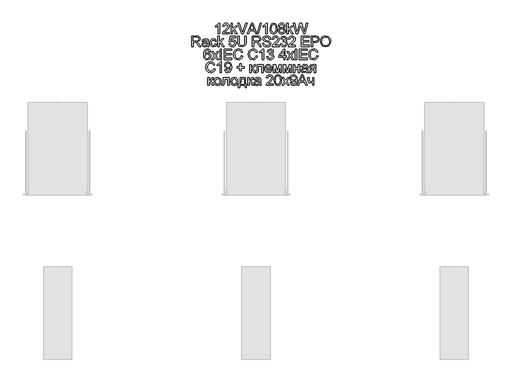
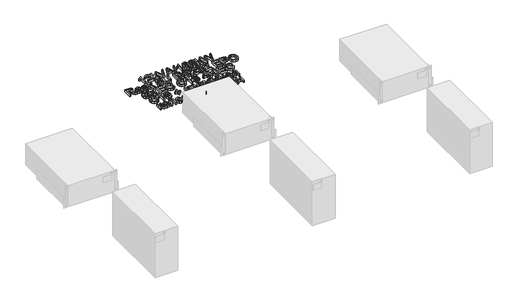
# One storey, part 62 of 74: 1 proxy.
"""IFC4 building model written with IfcOpenShell, lengths in millimetres."""

from ifc_helpers import new_model, si_unit, origin, origin_with_axes, place, context, project, spatial, polyline, outline, extrude, element, save

model = new_model("IFC4")

# Units and contexts
model_context = context("Model", 3, world=origin())
ifc_project = project(units=[si_unit("LENGTHUNIT", "METRE", prefix="MILLI")], contexts=[model_context])

# Site, building, storey
site = spatial("IfcSite", under=ifc_project)
building = spatial("IfcBuilding", under=site)
storey = spatial("IfcBuildingStorey", under=building, Name="Этаж 01", Elevation=0.0)

# Proxy
placement = place(None, origin())
element("IfcBuildingElementProxy", 1, Name="80 мм Arial", ObjectType="80 мм Arial", at=placement, inside=storey, context=model_context, shape_type="SweptSolid", body=[
    extrude(outline(polyline([(16076.7842514, -3326.633326), (16066.7386204, -3326.633326), (16066.7386204, -3264.0050951), (16057.2227394, -3270.783934), (16046.6473583, -3275.8558004), (16046.6473583, -3266.3595399), (16061.3724483, -3256.9613812), (16070.3095283, -3246.2682778), (16076.7842514, -3246.2682778), (16076.7842514, -3326.633326)])), origin_with_axes(), (0.0, 0.0, 1.0), 20.0),
    extrude(outline(polyline([(16152.126484, -3316.5876949), (16152.126484, -3326.633326), (16099.3869212, -3326.633326), (16100.4660417, -3319.7073343), (16106.5679777, -3309.0436615), (16119.1446369, -3297.3989701), (16136.4890467, -3280.6627918), (16140.8251491, -3269.2829755), (16136.7343013, -3260.0712103), (16126.0510082, -3256.3139089), (16114.9164465, -3259.9829186), (16110.6882561, -3270.1266515), (16100.6426251, -3268.8709476), (16103.0780039, -3259.1539579), (16108.3436215, -3252.0562879), (16116.1647927, -3247.7152804), (16126.2668323, -3246.2682778), (16136.4424483, -3247.8771484), (16144.2489042, -3252.7037602), (16149.2153111, -3259.9142473), (16150.8707801, -3268.6747439), (16149.0853262, -3278.200435), (16143.1501633, -3288.0498623), (16128.7586197, -3301.813554), (16117.2022199, -3311.4765878), (16112.6699137, -3316.5876949), (16152.126484, -3316.5876949)])), origin_with_axes(), (0.0, 0.0, 1.0), 20.0),
    extrude(outline(polyline([(16164.6835228, -3326.633326), (16164.6835228, -3246.2682778), (16174.7291538, -3246.2682778), (16174.7291538, -3289.452719), (16197.2533421, -3267.6152437), (16211.1445662, -3267.6152437), (16188.3456927, -3289.7274042), (16212.4002701, -3326.633326), (16200.667287, -3326.633326), (16181.1450158, -3296.712257), (16174.7291538, -3302.9319153), (16174.7291538, -3326.633326), (16164.6835228, -3326.633326)])), origin_with_axes(), (0.0, 0.0, 1.0), 20.0),
    extrude(outline(polyline([(16287.1735119, -3326.633326), (16319.2528219, -3246.2682778), (16327.8073045, -3246.2682778), (16359.8866145, -3326.633326), (16349.2719927, -3326.633326), (16340.0700377, -3301.5192484), (16306.9704683, -3301.5192484), (16297.7881337, -3326.633326), (16287.1735119, -3326.633326)]), holes=[polyline([(16310.6590985, -3291.4736174), (16336.4010279, -3291.4736174), (16329.1611103, -3271.7159017), (16323.5300632, -3256.3139089), (16318.5268681, -3269.9893089), (16310.6590985, -3291.4736174)])]), origin_with_axes(), (0.0, 0.0, 1.0), 20.0),
    extrude(outline(polyline([(16246.1865525, -3326.633326), (16214.2053444, -3246.2682778), (16224.9573089, -3246.2682778), (16246.3631359, -3304.1679988), (16250.6992383, -3317.2155469), (16254.9764797, -3304.1679988), (16276.4411678, -3246.2682778), (16287.1931323, -3246.2682778), (16256.5657299, -3326.633326), (16246.1865525, -3326.633326)])), origin_with_axes(), (0.0, 0.0, 1.0), 20.0),
    extrude(outline(polyline([(16361.8290314, -3326.633326), (16384.4317012, -3246.2682778), (16393.4963136, -3246.2682778), (16370.8936438, -3326.633326), (16361.8290314, -3326.633326)])), origin_with_axes(), (0.0, 0.0, 1.0), 20.0),
    extrude(outline(polyline([(16435.9155602, -3326.633326), (16425.8699292, -3326.633326), (16425.8699292, -3264.0050951), (16416.3540482, -3270.783934), (16405.7786671, -3275.8558004), (16405.7786671, -3266.3595399), (16420.5037571, -3256.9613812), (16429.4408371, -3246.2682778), (16435.9155602, -3246.2682778), (16435.9155602, -3326.633326)])), origin_with_axes(), (0.0, 0.0, 1.0), 20.0),
    extrude(outline(polyline([(16459.7739338, -3287.0982742), (16462.7268, -3263.9756645), (16471.4971067, -3250.643621), (16486.1437152, -3246.2682778), (16497.8766983, -3248.8581671), (16505.9799124, -3256.323719), (16510.688802, -3268.2136651), (16512.5134967, -3287.0982742), (16509.5900611, -3310.122782), (16500.8491849, -3323.4842561), (16486.1437152, -3327.8890298), (16475.7056768, -3325.9760435), (16467.7790461, -3320.2370843), (16461.7752119, -3306.6450709), (16459.7739338, -3287.0982742)]), holes=[polyline([(16469.8195649, -3287.0786538), (16470.9967872, -3302.8804118), (16474.5284544, -3312.0259582), (16486.1437152, -3317.8433988), (16497.7589761, -3312.0063378), (16501.2906433, -3302.8558863), (16502.4678656, -3287.0786538), (16501.329884, -3271.6325151), (16497.9159391, -3262.4158449), (16492.6674893, -3257.8393929), (16486.025993, -3256.3139089), (16474.6854174, -3261.6898911), (16471.036028, -3271.4804572), (16469.8195649, -3287.0786538)])]), origin_with_axes(), (0.0, 0.0, 1.0), 20.0),
    extrude(outline(polyline([(16535.9402221, -3282.3697643), (16526.7873181, -3276.1304857), (16523.8148316, -3266.418401), (16525.4335123, -3258.5653467), (16530.2895547, -3252.0759083), (16537.8384932, -3247.7201854), (16547.5358626, -3246.2682778), (16557.2920931, -3247.7545211), (16564.9391335, -3252.2132509), (16569.8834675, -3258.8056962), (16571.5315789, -3266.6930862), (16568.5983331, -3276.1599162), (16559.7004939, -3282.3697643), (16570.3837871, -3290.2473441), (16574.0429866, -3303.2458413), (16572.2281021, -3312.8500139), (16566.7834486, -3320.7864548), (16558.3761187, -3326.1133861), (16547.6732052, -3327.8890298), (16536.9702917, -3326.1060284), (16528.5629618, -3320.7570242), (16523.1183083, -3312.7445544), (16521.3034238, -3302.971156), (16525.1097762, -3289.6685431), (16535.9402221, -3282.3697643)]), holes=[polyline([(16533.8604626, -3266.7127066), (16537.4215603, -3274.6000966), (16547.7909275, -3277.6608748), (16557.9542807, -3274.6197169), (16561.4859479, -3267.1639752), (16557.8365585, -3259.4433584), (16547.6732052, -3256.3139089), (16537.4804214, -3259.3746871), (16533.8604626, -3266.7127066)]), polyline([(16531.3490548, -3302.6179893), (16533.0265967, -3310.1816431), (16538.9617596, -3315.8421208), (16547.7516867, -3317.8433988), (16559.7201143, -3313.6348288), (16563.9973556, -3302.9319153), (16559.5827717, -3292.0229879), (16547.4181404, -3287.7065058), (16535.5968656, -3291.9641267), (16531.3490548, -3302.6179893)])]), origin_with_axes(), (0.0, 0.0, 1.0), 20.0),
    extrude(outline(polyline([(16585.3443215, -3326.633326), (16585.3443215, -3246.2682778), (16595.3899525, -3246.2682778), (16595.3899525, -3289.452719), (16617.9141408, -3267.6152437), (16631.805365, -3267.6152437), (16609.0064915, -3289.7274042), (16633.0610688, -3326.633326), (16621.3280857, -3326.633326), (16601.8058145, -3296.712257), (16595.3899525, -3302.9319153), (16595.3899525, -3326.633326), (16585.3443215, -3326.633326)])), origin_with_axes(), (0.0, 0.0, 1.0), 20.0),
    extrude(outline(polyline([(16657.4884333, -3326.633326), (16635.5724766, -3246.2682778), (16645.9320336, -3246.2682778), (16658.6460353, -3299.0863222), (16662.5701099, -3315.3908522), (16666.7688698, -3300.969878), (16682.7006127, -3246.2682778), (16697.6317166, -3246.2682778), (16709.2077368, -3285.9210518), (16717.8210805, -3315.3908522), (16721.6274329, -3299.5572111), (16734.4591569, -3246.2682778), (16744.8187139, -3246.2682778), (16722.8831368, -3326.633326), (16712.1507927, -3326.633326), (16692.8835864, -3264.632947), (16690.1955952, -3255.9803625), (16687.1740578, -3266.3987806), (16669.6138239, -3326.633326), (16657.4884333, -3326.633326)])), origin_with_axes(), (0.0, 0.0, 1.0), 20.0),
    extrude(outline(polyline([(15866.453852, -3424.2131802), (15866.453852, -3343.8481321), (15901.0838105, -3343.8481321), (15917.1627062, -3346.0161833), (15925.9526334, -3353.6877492), (15929.2390459, -3365.8425703), (15923.7943923, -3380.3224057), (15906.9699224, -3387.7977678), (15912.679451, -3392.0946295), (15920.8219058, -3402.4345661), (15934.2226206, -3424.2131802), (15922.5484986, -3424.2131802), (15912.0908398, -3407.5554835), (15904.5369962, -3396.5288338), (15899.2296852, -3391.3196248), (15894.4521244, -3389.4066384), (15888.6248736, -3389.0534717), (15876.499483, -3389.0534717), (15876.499483, -3424.2131802), (15866.453852, -3424.2131802)]), holes=[polyline([(15876.499483, -3379.0078407), (15898.9844306, -3379.0078407), (15910.4525386, -3377.5853636), (15916.9665025, -3373.0334371), (15919.1934148, -3366.2153574), (15914.9456041, -3357.3665692), (15901.5154587, -3353.8937631), (15876.499483, -3353.8937631), (15876.499483, -3379.0078407)])]), origin_with_axes(), (0.0, 0.0, 1.0), 20.0),
    extrude(outline(polyline([(15983.2343126, -3416.678957), (15973.4927973, -3423.4872264), (15962.7310227, -3425.4688841), (15948.1432753, -3420.7011335), (15943.0517885, -3408.5168818), (15944.9745851, -3400.5706307), (15950.0268311, -3394.802241), (15957.0607349, -3391.5060183), (15965.7525602, -3389.9952496), (15983.1754514, -3386.5420639), (15983.2343126, -3384.3053414), (15980.46784, -3376.8888404), (15969.3627088, -3373.9850252), (15959.1993555, -3375.9176319), (15954.3531234, -3382.7749523), (15944.3074924, -3381.5192484), (15948.653405, -3371.7090619), (15957.4040914, -3365.9602926), (15970.6576534, -3363.9393941), (15982.8320949, -3365.7248481), (15989.7090357, -3370.2081033), (15992.7894343, -3377.026183), (15993.2799436, -3385.8161101), (15993.2799436, -3398.3142878), (15993.7900733, -3415.7666096), (15995.7913513, -3424.2131802), (15985.7457203, -3424.2131802), (15983.2343126, -3416.678957)]), holes=[polyline([(15983.2343126, -3396.5876949), (15967.0278844, -3399.6680935), (15958.3851101, -3401.2965845), (15954.4708456, -3403.9453348), (15953.0974195, -3407.8105483), (15956.0895264, -3413.2453917), (15964.8696434, -3415.4232531), (15975.0329966, -3413.0197574), (15981.5862012, -3407.2023168), (15983.1754514, -3399.432649), (15983.2343126, -3396.5876949)])]), origin_with_axes(), (0.0, 0.0, 1.0), 20.0),
    extrude(outline(polyline([(16044.7638025, -3402.8662143), (16054.8094335, -3404.1219182), (16052.0086253, -3413.0565456), (16046.7454602, -3419.8084065), (16030.8137173, -3425.4688841), (16020.1279716, -3423.4945841), (16011.7721452, -3417.571684), (16006.3789952, -3407.9601537), (16004.5812785, -3394.9199632), (16007.6518669, -3378.2328359), (16017.0107848, -3367.510302), (16030.6763747, -3363.9393941), (16045.9508351, -3368.8444874), (16053.5537297, -3382.7749523), (16043.5080987, -3384.0306562), (16038.84826, -3376.5062431), (16030.7548562, -3373.9850252), (16019.1101647, -3378.9489796), (16014.6269095, -3394.645278), (16019.0120629, -3410.4887293), (16030.4801709, -3415.4232531), (16039.9470009, -3412.3428545), (16044.7638025, -3402.8662143)])), origin_with_axes(), (0.0, 0.0, 1.0), 20.0),
    extrude(outline(polyline([(16063.5993607, -3424.2131802), (16063.5993607, -3343.8481321), (16073.6449917, -3343.8481321), (16073.6449917, -3387.0325733), (16096.16918, -3365.195098), (16110.0604041, -3365.195098), (16087.2615306, -3387.3072585), (16111.316108, -3424.2131802), (16099.5831249, -3424.2131802), (16080.0608537, -3394.2921113), (16073.6449917, -3400.5117696), (16073.6449917, -3424.2131802), (16063.5993607, -3424.2131802)])), origin_with_axes(), (0.0, 0.0, 1.0), 20.0),
    extrude(outline(polyline([(16148.9872243, -3402.8662143), (16159.0328553, -3401.6105105), (16164.0949116, -3411.9602573), (16174.5918112, -3415.4232531), (16187.1880907, -3410.6064515), (16191.6811561, -3397.8237784), (16187.4725861, -3385.8945916), (16174.7487742, -3381.5192484), (16165.9294165, -3383.2654616), (16160.2885592, -3387.7977678), (16150.2429282, -3386.5420639), (16159.0328553, -3345.103836), (16197.9596755, -3345.103836), (16197.9596755, -3355.149467), (16167.1556898, -3355.149467), (16162.8588281, -3377.2812478), (16177.5544875, -3371.4736174), (16186.9403835, -3373.2737866), (16194.7321241, -3378.6742943), (16199.9781214, -3386.9050408), (16201.7267871, -3397.1959265), (16200.1522522, -3407.2415575), (16195.4286474, -3415.8352809), (16186.3836554, -3423.0604833), (16174.5525704, -3425.4688841), (16164.6859753, -3423.9213272), (16156.8255634, -3419.2786564), (16151.4373184, -3412.080432), (16148.9872243, -3402.8662143)])), origin_with_axes(), (0.0, 0.0, 1.0), 20.0),
    extrude(outline(polyline([(16267.0233887, -3343.8481321), (16277.0690198, -3343.8481321), (16277.0690198, -3390.2110737), (16274.3417879, -3409.4292291), (16264.511981, -3421.0052492), (16245.8726266, -3425.4688841), (16227.5177675, -3421.5840502), (16217.3347939, -3410.3317663), (16214.2838259, -3390.2110737), (16214.2838259, -3343.8481321), (16224.3294569, -3343.8481321), (16224.3294569, -3389.857907), (16226.3111146, -3405.1716082), (16233.1193841, -3412.7548824), (16244.9308487, -3415.4232531), (16255.1481579, -3414.103783), (16261.9417121, -3410.1453727), (16265.7529696, -3402.4345661), (16267.0233887, -3389.857907), (16267.0233887, -3343.8481321)])), origin_with_axes(), (0.0, 0.0, 1.0), 20.0),
    extrude(outline(polyline([(16326.0414709, -3424.2131802), (16326.0414709, -3343.8481321), (16360.6714294, -3343.8481321), (16376.7503252, -3346.0161833), (16385.5402523, -3353.6877492), (16388.8266648, -3365.8425703), (16383.3820113, -3380.3224057), (16366.5575414, -3387.7977678), (16372.2670699, -3392.0946295), (16380.4095247, -3402.4345661), (16393.8102396, -3424.2131802), (16382.1361176, -3424.2131802), (16371.6784587, -3407.5554835), (16364.1246151, -3396.5288338), (16358.8173042, -3391.3196248), (16354.0397433, -3389.4066384), (16348.2124925, -3389.0534717), (16336.087102, -3389.0534717), (16336.087102, -3424.2131802), (16326.0414709, -3424.2131802)]), holes=[polyline([(16336.087102, -3379.0078407), (16358.5720495, -3379.0078407), (16370.0401576, -3377.5853636), (16376.5541214, -3373.0334371), (16378.7810338, -3366.2153574), (16374.533223, -3357.3665692), (16361.1030776, -3353.8937631), (16336.087102, -3353.8937631), (16336.087102, -3379.0078407)])]), origin_with_axes(), (0.0, 0.0, 1.0), 20.0),
    extrude(outline(polyline([(16402.6394074, -3396.5876949), (16412.6850385, -3396.5876949), (16415.9224, -3406.6431361), (16423.8294104, -3413.000137), (16435.8763194, -3415.4232531), (16446.373219, -3413.5887482), (16453.1520579, -3408.5463123), (16455.3789703, -3401.8067142), (16453.7112386, -3395.538005), (16446.8833487, -3390.9762682), (16432.2563606, -3387.1404853), (16416.5110112, -3382.1863411), (16407.9663387, -3374.710979), (16405.1508152, -3364.7242091), (16408.6334314, -3353.3542029), (16418.8065949, -3345.3294703), (16433.698458, -3342.5924282), (16449.5909602, -3345.4570027), (16460.1859617, -3353.8741428), (16464.1688974, -3366.4508019), (16454.1232664, -3366.4508019), (16448.4333582, -3356.1304857), (16434.0908655, -3352.6380593), (16419.709132, -3356.0912449), (16415.1964462, -3364.4299035), (16418.394567, -3371.3951359), (16434.7971989, -3377.0065626), (16452.5732569, -3382.0489985), (16462.2951518, -3390.1914533), (16465.4246013, -3401.5516493), (16461.8242628, -3413.5691278), (16451.4647058, -3422.3394346), (16436.2687269, -3425.4688841), (16418.3258957, -3422.0941799), (16406.9755099, -3411.9308267), (16402.6394074, -3396.5876949)])), origin_with_axes(), (0.0, 0.0, 1.0), 20.0),
    extrude(outline(polyline([(16528.2097951, -3414.1675492), (16528.2097951, -3424.2131802), (16475.4702323, -3424.2131802), (16476.5493528, -3417.2871885), (16482.6512888, -3406.6235158), (16495.227948, -3394.9788244), (16512.5723578, -3378.2426461), (16516.9084602, -3366.8628297), (16512.8176124, -3357.6510646), (16502.1343193, -3353.8937631), (16490.9997576, -3357.5627729), (16486.7715672, -3367.7065058), (16476.7259362, -3366.4508019), (16479.161315, -3356.7338121), (16484.4269326, -3349.6361422), (16492.2481038, -3345.2951346), (16502.3501434, -3343.8481321), (16512.5257594, -3345.4570027), (16520.3322153, -3350.2836145), (16525.2986223, -3357.4941016), (16526.9540912, -3366.2545982), (16525.1686373, -3375.7802893), (16519.2334744, -3385.6297166), (16504.8419308, -3399.3934083), (16493.285531, -3409.056442), (16488.7532249, -3414.1675492), (16528.2097951, -3414.1675492)])), origin_with_axes(), (0.0, 0.0, 1.0), 20.0),
    extrude(outline(polyline([(16538.2554261, -3402.8662143), (16548.3010572, -3401.6105105), (16553.8438125, -3412.1858915), (16564.2131797, -3415.4232531), (16576.4170518, -3410.9694284), (16580.949358, -3399.9427787), (16576.4562925, -3389.5537912), (16565.0372354, -3385.443323), (16557.9935215, -3386.5420639), (16559.1118827, -3376.4964329), (16560.7207533, -3376.6141552), (16572.1201901, -3373.7299603), (16577.1822463, -3364.8615517), (16573.5132366, -3357.0035923), (16564.0562167, -3353.8937631), (16554.4814747, -3357.0330228), (16549.556761, -3366.4508019), (16539.51113, -3365.195098), (16547.7320663, -3349.4399384), (16563.70305, -3343.8481321), (16575.8186304, -3346.6047945), (16584.2946316, -3354.1390178), (16587.2278773, -3364.2729405), (16584.4417844, -3373.5337566), (16576.2012277, -3380.1850631), (16587.1493958, -3387.0521936), (16590.994989, -3400.1193621), (16589.0721924, -3409.9099283), (16583.3038027, -3418.0916238), (16574.5972622, -3423.624569), (16563.860013, -3425.4688841), (16554.1479283, -3423.8943492), (16546.240918, -3419.1707444), (16540.7423084, -3411.945542), (16538.2554261, -3402.8662143)])), origin_with_axes(), (0.0, 0.0, 1.0), 20.0),
    extrude(outline(polyline([(16651.2687751, -3414.1675492), (16651.2687751, -3424.2131802), (16598.5292122, -3424.2131802), (16599.6083327, -3417.2871885), (16605.7102688, -3406.6235158), (16618.2869279, -3394.9788244), (16635.6313377, -3378.2426461), (16639.9674402, -3366.8628297), (16635.8765924, -3357.6510646), (16625.1932992, -3353.8937631), (16614.0587375, -3357.5627729), (16609.8305471, -3367.7065058), (16599.7849161, -3366.4508019), (16602.2202949, -3356.7338121), (16607.4859125, -3349.6361422), (16615.3070838, -3345.2951346), (16625.4091233, -3343.8481321), (16635.5847393, -3345.4570027), (16643.3911953, -3350.2836145), (16648.3576022, -3357.4941016), (16650.0130712, -3366.2545982), (16648.2276172, -3375.7802893), (16642.2924544, -3385.6297166), (16627.9009107, -3399.3934083), (16616.344511, -3409.056442), (16611.8122048, -3414.1675492), (16651.2687751, -3414.1675492)])), origin_with_axes(), (0.0, 0.0, 1.0), 20.0),
    extrude(outline(polyline([(16696.4741146, -3424.2131802), (16696.4741146, -3343.8481321), (16754.236493, -3343.8481321), (16754.236493, -3353.8937631), (16706.5197456, -3353.8937631), (16706.5197456, -3377.7521368), (16751.7250852, -3377.7521368), (16751.7250852, -3387.7977678), (16706.5197456, -3387.7977678), (16706.5197456, -3414.1675492), (16755.4921968, -3414.1675492), (16755.4921968, -3424.2131802), (16696.4741146, -3424.2131802)])), origin_with_axes(), (0.0, 0.0, 1.0), 20.0),
    extrude(outline(polyline([(16770.5606434, -3424.2131802), (16770.5606434, -3343.8481321), (16800.3443697, -3343.8481321), (16812.352038, -3344.6133267), (16822.1131736, -3348.3706281), (16828.4407439, -3356.1402958), (16830.8344295, -3367.0982742), (16829.2182012, -3376.5700093), (16824.3695165, -3384.4623044), (16815.3024516, -3389.7892357), (16801.0310827, -3391.5648794), (16780.6062744, -3391.5648794), (16780.6062744, -3424.2131802), (16770.5606434, -3424.2131802)]), holes=[polyline([(16780.6062744, -3381.5192484), (16801.6196939, -3381.5192484), (16816.4134552, -3377.8306183), (16820.7887984, -3367.4514409), (16818.2087194, -3359.1324027), (16811.4298805, -3354.5804762), (16801.3842495, -3353.8937631), (16780.6062744, -3353.8937631), (16780.6062744, -3381.5192484)])]), origin_with_axes(), (0.0, 0.0, 1.0), 20.0),
    extrude(outline(polyline([(16840.8800605, -3385.0901563), (16843.5582414, -3367.3190034), (16851.5927842, -3353.8741428), (16863.8604224, -3345.4128569), (16879.2378898, -3342.5924282), (16899.23105, -3347.889929), (16912.8083482, -3362.6640699), (16917.477997, -3384.1679988), (16912.5630935, -3405.9662333), (16898.6326286, -3420.5245501), (16879.1790287, -3425.4688841), (16858.9700444, -3420.0046102), (16845.4712278, -3405.0931267), (16840.8800605, -3385.0901563)]), holes=[polyline([(16850.9256915, -3385.1882582), (16852.9343272, -3397.7600122), (16858.9602343, -3407.3396594), (16868.017489, -3413.4023547), (16879.1201676, -3415.4232531), (16890.3847143, -3413.3827343), (16899.4566843, -3407.2611779), (16905.4384455, -3397.3872251), (16907.4323659, -3384.0895173), (16904.018421, -3367.510302), (16894.0414613, -3356.5327033), (16879.2967509, -3352.6380593), (16868.4908305, -3354.5142574), (16859.3035908, -3360.142852), (16853.0201663, -3370.1565999), (16850.9256915, -3385.1882582)])]), origin_with_axes(), (0.0, 0.0, 1.0), 20.0),
    extrude(outline(polyline([(16009.604094, -3462.7749523), (15999.558463, -3464.0306562), (15995.7521106, -3455.6527569), (15985.6868592, -3451.4736174), (15976.6222468, -3453.9065437), (15969.7649264, -3463.0398273), (15966.9101622, -3480.9434178), (15975.7687606, -3472.9284954), (15986.7463593, -3470.3091756), (15996.0267958, -3472.0995346), (16003.8160839, -3477.4706117), (16009.0988694, -3485.6768328), (16010.8597979, -3495.9726235), (16007.5439548, -3509.8344171), (15998.4204813, -3519.6446037), (15985.255211, -3523.0487384), (15973.8582268, -3520.7923955), (15964.7813517, -3514.0233668), (15958.8437363, -3502.0745596), (15956.8645311, -3484.2788812), (15959.0620129, -3464.2710057), (15965.6544583, -3450.5907006), (15974.6553044, -3443.7186649), (15986.3147111, -3441.4279864), (15995.1291637, -3442.8455583), (16002.187593, -3447.0982742), (16009.604094, -3462.7749523)]), holes=[polyline([(15966.9101622, -3495.8156606), (15969.2351764, -3504.517296), (15975.4155939, -3510.8350561), (15984.4703961, -3513.0031074), (15996.3112912, -3508.5100419), (16000.8141668, -3496.3061699), (15996.3701523, -3484.6222377), (15984.0583682, -3480.3548066), (15971.9035471, -3484.6222377), (15966.9101622, -3495.8156606)])]), origin_with_axes(), (0.0, 0.0, 1.0), 20.0),
    extrude(outline(polyline([(16015.8826134, -3521.7930345), (16037.3473015, -3492.1270304), (16017.1383172, -3462.7749523), (16029.2244671, -3462.7749523), (16038.9757925, -3476.9016209), (16043.527719, -3483.5725478), (16047.471414, -3478.118084), (16058.5765452, -3462.7749523), (16070.662695, -3462.7749523), (16049.4334513, -3492.1270304), (16069.8778801, -3521.7930345), (16057.7917303, -3521.7930345), (16045.4897563, -3503.9581154), (16043.2334134, -3500.7011335), (16027.9687632, -3521.7930345), (16015.8826134, -3521.7930345)])), origin_with_axes(), (0.0, 0.0, 1.0), 20.0),
    extrude(outline(polyline([(16081.179215, -3521.7930345), (16081.179215, -3441.4279864), (16091.224846, -3441.4279864), (16091.224846, -3521.7930345), (16081.179215, -3521.7930345)])), origin_with_axes(), (0.0, 0.0, 1.0), 20.0),
    extrude(outline(polyline([(16111.316108, -3521.7930345), (16111.316108, -3441.4279864), (16169.0784863, -3441.4279864), (16169.0784863, -3451.4736174), (16121.361739, -3451.4736174), (16121.361739, -3475.3319911), (16166.5670786, -3475.3319911), (16166.5670786, -3485.3776221), (16121.361739, -3485.3776221), (16121.361739, -3511.7474035), (16170.3341902, -3511.7474035), (16170.3341902, -3521.7930345), (16111.316108, -3521.7930345)])), origin_with_axes(), (0.0, 0.0, 1.0), 20.0),
    extrude(outline(polyline([(16241.9093112, -3493.2257713), (16251.9549422, -3495.8156606), (16247.3196291, -3507.5216656), (16240.0453758, -3516.0736958), (16230.4902541, -3521.3049777), (16219.0123358, -3523.0487384), (16198.1068283, -3517.770858), (16185.8440951, -3502.4865874), (16181.6355251, -3481.0022789), (16186.3934656, -3459.1648037), (16199.9217128, -3445.0087045), (16219.2281599, -3440.1722825), (16230.2425469, -3441.7370073), (16239.3488525, -3446.4311815), (16246.2625815, -3453.9654048), (16250.6992383, -3464.0502765), (16240.6536073, -3466.4439621), (16232.4130506, -3454.0929372), (16218.8357525, -3450.2179135), (16203.1198336, -3454.5147752), (16194.2416148, -3466.0515546), (16191.6811561, -3480.9826585), (16194.7125038, -3498.2878276), (16204.1499032, -3509.3439078), (16218.0116968, -3513.0031074), (16233.3842591, -3508.0195326), (16241.9093112, -3493.2257713)])), origin_with_axes(), (0.0, 0.0, 1.0), 20.0),
    extrude(outline(polyline([(16353.6669562, -3493.2257713), (16363.7125873, -3495.8156606), (16359.0772741, -3507.5216656), (16351.8030208, -3516.0736958), (16342.2478991, -3521.3049777), (16330.7699809, -3523.0487384), (16309.8644733, -3517.770858), (16297.6017402, -3502.4865874), (16293.3931702, -3481.0022789), (16298.1511106, -3459.1648037), (16311.6793579, -3445.0087045), (16330.985805, -3440.1722825), (16342.0001919, -3441.7370073), (16351.1064976, -3446.4311815), (16358.0202265, -3453.9654048), (16362.4568834, -3464.0502765), (16352.4112524, -3466.4439621), (16344.1706957, -3454.0929372), (16330.5933975, -3450.2179135), (16314.8774787, -3454.5147752), (16305.9992599, -3466.0515546), (16303.4388012, -3480.9826585), (16306.4701488, -3498.2878276), (16315.9075483, -3509.3439078), (16329.7693418, -3513.0031074), (16345.1419041, -3508.0195326), (16353.6669562, -3493.2257713)])), origin_with_axes(), (0.0, 0.0, 1.0), 20.0),
    extrude(outline(polyline([(16411.4293346, -3521.7930345), (16401.3837036, -3521.7930345), (16401.3837036, -3459.1648037), (16391.8678226, -3465.9436426), (16381.2924415, -3471.015509), (16381.2924415, -3461.5192484), (16396.0175315, -3452.1210897), (16404.9546115, -3441.4279864), (16411.4293346, -3441.4279864), (16411.4293346, -3521.7930345)])), origin_with_axes(), (0.0, 0.0, 1.0), 20.0),
    extrude(outline(polyline([(16435.2877082, -3500.4460686), (16445.3333393, -3499.1903647), (16450.8760946, -3509.7657458), (16461.2454618, -3513.0031074), (16473.4493339, -3508.5492827), (16477.98164, -3497.522633), (16473.4885746, -3487.1336455), (16462.0695175, -3483.0231773), (16455.0258036, -3484.1219182), (16456.1441648, -3474.0762872), (16457.7530354, -3474.1940094), (16469.1524722, -3471.3098146), (16474.2145284, -3462.441406), (16470.5455187, -3454.5834465), (16461.0884988, -3451.4736174), (16451.5137568, -3454.6128771), (16446.5890431, -3464.0306562), (16436.5434121, -3462.7749523), (16444.7643484, -3447.0197927), (16460.7353321, -3441.4279864), (16472.8509125, -3444.1846488), (16481.3269137, -3451.7188721), (16484.2601594, -3461.8527948), (16481.4740665, -3471.1136109), (16473.2335098, -3477.7649173), (16484.1816779, -3484.6320479), (16488.0272711, -3497.6992164), (16486.1044745, -3507.4897825), (16480.3360848, -3515.6714781), (16471.6295443, -3521.2044233), (16460.8922951, -3523.0487384), (16451.1802104, -3521.4742035), (16443.2732001, -3516.7505986), (16437.7745905, -3509.5253962), (16435.2877082, -3500.4460686)])), origin_with_axes(), (0.0, 0.0, 1.0), 20.0),
    extrude(outline(polyline([(16560.8580959, -3521.7930345), (16560.8580959, -3502.9574764), (16524.4426835, -3502.9574764), (16524.4426835, -3492.9118453), (16563.3695037, -3442.6836903), (16570.9037269, -3442.6836903), (16570.9037269, -3492.9118453), (16580.949358, -3492.9118453), (16580.949358, -3502.9574764), (16570.9037269, -3502.9574764), (16570.9037269, -3521.7930345), (16560.8580959, -3521.7930345)]), holes=[polyline([(16560.8580959, -3492.9118453), (16560.8580959, -3461.8724151), (16536.8035185, -3492.9118453), (16560.8580959, -3492.9118453)])]), origin_with_axes(), (0.0, 0.0, 1.0), 20.0),
    extrude(outline(polyline([(16585.9721735, -3521.7930345), (16607.4368616, -3492.1270304), (16587.2278773, -3462.7749523), (16599.3140272, -3462.7749523), (16609.0653526, -3476.9016209), (16613.6172791, -3483.5725478), (16617.5609741, -3478.118084), (16628.6661053, -3462.7749523), (16640.7522551, -3462.7749523), (16619.5230114, -3492.1270304), (16639.9674402, -3521.7930345), (16627.8812904, -3521.7930345), (16615.5793164, -3503.9581154), (16613.3229735, -3500.7011335), (16598.0583233, -3521.7930345), (16585.9721735, -3521.7930345)])), origin_with_axes(), (0.0, 0.0, 1.0), 20.0),
    extrude(outline(polyline([(16651.2687751, -3521.7930345), (16651.2687751, -3441.4279864), (16661.3144061, -3441.4279864), (16661.3144061, -3521.7930345), (16651.2687751, -3521.7930345)])), origin_with_axes(), (0.0, 0.0, 1.0), 20.0),
    extrude(outline(polyline([(16681.4056681, -3521.7930345), (16681.4056681, -3441.4279864), (16739.1680464, -3441.4279864), (16739.1680464, -3451.4736174), (16691.4512991, -3451.4736174), (16691.4512991, -3475.3319911), (16736.6566387, -3475.3319911), (16736.6566387, -3485.3776221), (16691.4512991, -3485.3776221), (16691.4512991, -3511.7474035), (16740.4237503, -3511.7474035), (16740.4237503, -3521.7930345), (16681.4056681, -3521.7930345)])), origin_with_axes(), (0.0, 0.0, 1.0), 20.0),
    extrude(outline(polyline([(16811.9988713, -3493.2257713), (16822.0445023, -3495.8156606), (16817.4091892, -3507.5216656), (16810.1349359, -3516.0736958), (16800.5798142, -3521.3049777), (16789.1018959, -3523.0487384), (16768.1963884, -3517.770858), (16755.9336552, -3502.4865874), (16751.7250852, -3481.0022789), (16756.4830257, -3459.1648037), (16770.0112729, -3445.0087045), (16789.31772, -3440.1722825), (16800.332107, -3441.7370073), (16809.4384126, -3446.4311815), (16816.3521416, -3453.9654048), (16820.7887984, -3464.0502765), (16810.7431674, -3466.4439621), (16802.5026107, -3454.0929372), (16788.9253126, -3450.2179135), (16773.2093937, -3454.5147752), (16764.3311749, -3466.0515546), (16761.7707162, -3480.9826585), (16764.8020639, -3498.2878276), (16774.2394633, -3509.3439078), (16788.1012569, -3513.0031074), (16803.4738192, -3508.0195326), (16811.9988713, -3493.2257713)])), origin_with_axes(), (0.0, 0.0, 1.0), 20.0),
    extrude(outline(polyline([(16033.4624676, -3590.8056256), (16043.5080987, -3593.3955148), (16038.8727855, -3605.1015199), (16031.5985322, -3613.65355), (16022.0434105, -3618.884832), (16010.5654923, -3620.6285927), (15989.6599847, -3615.3507123), (15977.3972516, -3600.0664417), (15973.1886815, -3578.5821332), (15977.946622, -3556.7446579), (15991.4748693, -3542.5885588), (16010.7813164, -3537.7521368), (16021.7957033, -3539.3168615), (16030.902009, -3544.0110358), (16037.8157379, -3551.5452591), (16042.2523948, -3561.6301308), (16032.2067638, -3564.0238163), (16023.9662071, -3551.6727915), (16010.3889089, -3547.7977678), (15994.6729901, -3552.0946295), (15985.7947712, -3563.6314089), (15983.2343126, -3578.5625128), (15986.2656602, -3595.8676818), (15995.7030597, -3606.9237621), (16009.5648532, -3610.5829617), (16024.9374155, -3605.5993869), (16033.4624676, -3590.8056256)])), origin_with_axes(), (0.0, 0.0, 1.0), 20.0),
    extrude(outline(polyline([(16091.224846, -3619.3728888), (16081.179215, -3619.3728888), (16081.179215, -3556.7446579), (16071.663334, -3563.5234968), (16061.0879529, -3568.5953633), (16061.0879529, -3559.0991027), (16075.8130429, -3549.700944), (16084.7501229, -3539.0078407), (16091.224846, -3539.0078407), (16091.224846, -3619.3728888)])), origin_with_axes(), (0.0, 0.0, 1.0), 20.0),
    extrude(outline(polyline([(16116.3389235, -3599.2816268), (16126.3845545, -3598.0259229), (16130.8972403, -3607.6104751), (16139.451723, -3610.5829617), (16147.5843676, -3608.6699753), (16153.0976925, -3603.5588681), (16156.384105, -3594.8278021), (16157.8360126, -3583.1733005), (16157.7771514, -3581.2112632), (16149.7426087, -3588.8239679), (16138.7257692, -3591.7474035), (16129.5655075, -3589.9619495), (16121.94054, -3584.6055877), (16116.7975497, -3576.3306954), (16115.0832196, -3565.7896499), (16116.8809363, -3554.9003429), (16122.2740864, -3546.3654806), (16130.3748479, -3540.8472506), (16140.295399, -3539.0078407), (16154.6084612, -3543.2066005), (16164.4578885, -3555.1750281), (16167.8227825, -3577.6599756), (16164.4676987, -3602.0579095), (16154.490739, -3615.8804624), (16138.980834, -3620.6285927), (16130.3920157, -3619.2281885), (16123.5396004, -3615.0269762), (16116.3389235, -3599.2816268)]), holes=[polyline([(16157.7771514, -3565.5542054), (16153.441049, -3553.5072964), (16141.92389, -3549.0534717), (16129.8377402, -3553.8506529), (16125.1288506, -3566.2801592), (16129.5826753, -3577.414721), (16141.6492048, -3581.7017725), (16153.2350351, -3577.414721), (16157.7771514, -3565.5542054)])]), origin_with_axes(), (0.0, 0.0, 1.0), 20.0),
    extrude(outline(polyline([(16230.6079763, -3606.81585), (16230.6079763, -3585.4688841), (16209.2610104, -3585.4688841), (16209.2610104, -3575.4232531), (16230.6079763, -3575.4232531), (16230.6079763, -3554.0762872), (16240.6536073, -3554.0762872), (16240.6536073, -3575.4232531), (16262.0005732, -3575.4232531), (16262.0005732, -3585.4688841), (16240.6536073, -3585.4688841), (16240.6536073, -3606.81585), (16230.6079763, -3606.81585)])), origin_with_axes(), (0.0, 0.0, 1.0), 20.0),
    extrude(outline(polyline([(16361.2011795, -3560.3548066), (16406.4065191, -3560.3548066), (16406.4065191, -3619.3140277), (16396.3608881, -3619.3140277), (16396.3608881, -3570.4004376), (16371.2468105, -3570.4004376), (16371.2468105, -3598.555673), (16370.5699076, -3611.5443599), (16366.8518469, -3617.0282542), (16358.0619198, -3619.3728888), (16349.8998446, -3618.8627591), (16349.8998446, -3609.3272578), (16354.39291, -3609.3272578), (16358.9350264, -3608.709216), (16360.7499109, -3606.7471787), (16361.2011795, -3597.9866821), (16361.2011795, -3560.3548066)])), origin_with_axes(), (0.0, 0.0, 1.0), 20.0),
    extrude(outline(polyline([(16307.2059128, -3560.3548066), (16317.2515438, -3560.3548066), (16317.2515438, -3585.4688841), (16323.9813318, -3583.6638098), (16329.4946566, -3573.1472898), (16334.0760137, -3564.0728673), (16338.1178106, -3561.1200011), (16345.4656403, -3560.3548066), (16347.3884369, -3560.3548066), (16347.3884369, -3570.4592987), (16344.6808254, -3570.4004376), (16339.7757321, -3571.4599377), (16336.3225464, -3578.0720035), (16332.2709394, -3585.2236295), (16326.5908414, -3588.725866), (16332.9282219, -3592.6352254), (16339.1478802, -3600.870877), (16349.8998446, -3619.3728888), (16338.4807875, -3619.3728888), (16327.9446471, -3601.2632844), (16322.6471464, -3593.6015288), (16317.2515438, -3591.7474035), (16317.2515438, -3619.3728888), (16307.2059128, -3619.3728888), (16307.2059128, -3560.3548066)])), origin_with_axes(), (0.0, 0.0, 1.0), 20.0),
    extrude(outline(polyline([(16462.7954713, -3601.7930345), (16472.6448986, -3603.0487384), (16463.4331334, -3616.017805), (16446.2751172, -3620.6285927), (16434.488178, -3618.6395773), (16425.4186606, -3612.6725314), (16419.6355556, -3603.1149571), (16417.707854, -3590.354357), (16419.655176, -3577.1645612), (16425.4971421, -3567.3004186), (16434.4440322, -3561.1494317), (16445.7061263, -3559.0991027), (16456.6175063, -3561.1445266), (16465.3363096, -3567.2807983), (16471.0531958, -3577.1253205), (16472.9588245, -3590.2954959), (16472.8999634, -3593.0031074), (16427.753485, -3593.0031074), (16433.5316848, -3606.0506555), (16446.4713209, -3610.5829617), (16456.3207482, -3608.4835817), (16462.7954713, -3601.7930345)]), holes=[polyline([(16427.753485, -3582.9574764), (16462.9131935, -3582.9574764), (16458.891017, -3573.8536233), (16445.6668856, -3569.1447337), (16433.2962404, -3572.9020352), (16427.753485, -3582.9574764)])]), origin_with_axes(), (0.0, 0.0, 1.0), 20.0),
    extrude(outline(polyline([(16483.0044556, -3560.3548066), (16500.2900042, -3560.3548066), (16513.6122376, -3607.6006649), (16527.9743506, -3560.3548066), (16544.5339455, -3560.3548066), (16544.5339455, -3619.3728888), (16534.4883145, -3619.3728888), (16534.4883145, -3571.8523452), (16520.0477199, -3619.3728888), (16506.8628292, -3619.3728888), (16493.0500866, -3569.5763819), (16493.0500866, -3619.3728888), (16483.0044556, -3619.3728888), (16483.0044556, -3560.3548066)])), origin_with_axes(), (0.0, 0.0, 1.0), 20.0),
    extrude(outline(polyline([(16559.602392, -3560.3548066), (16576.8879407, -3560.3548066), (16590.210174, -3607.6006649), (16604.5722871, -3560.3548066), (16621.131882, -3560.3548066), (16621.131882, -3619.3728888), (16611.086251, -3619.3728888), (16611.086251, -3571.8523452), (16596.6456564, -3619.3728888), (16583.4607657, -3619.3728888), (16569.6480231, -3569.5763819), (16569.6480231, -3619.3728888), (16559.602392, -3619.3728888), (16559.602392, -3560.3548066)])), origin_with_axes(), (0.0, 0.0, 1.0), 20.0),
    extrude(outline(polyline([(16636.2003285, -3560.3548066), (16646.2459596, -3560.3548066), (16646.2459596, -3582.9574764), (16672.615741, -3582.9574764), (16672.615741, -3560.3548066), (16682.661372, -3560.3548066), (16682.661372, -3619.3728888), (16672.615741, -3619.3728888), (16672.615741, -3593.0031074), (16646.2459596, -3593.0031074), (16646.2459596, -3619.3728888), (16636.2003285, -3619.3728888), (16636.2003285, -3560.3548066)])), origin_with_axes(), (0.0, 0.0, 1.0), 20.0),
    extrude(outline(polyline([(16735.4009348, -3611.8386655), (16725.6594196, -3618.646935), (16714.8976449, -3620.6285927), (16700.3098976, -3615.860842), (16695.2184107, -3603.6765903), (16697.1412073, -3595.7303392), (16702.1934534, -3589.9619495), (16709.2273571, -3586.6657269), (16717.9191824, -3585.1549581), (16735.3420737, -3581.7017725), (16735.4009348, -3579.46505), (16732.6344622, -3572.0485489), (16721.529331, -3569.1447337), (16711.3659778, -3571.0773405), (16706.5197456, -3577.9346609), (16696.4741146, -3576.678957), (16700.8200273, -3566.8687704), (16709.5707137, -3561.1200011), (16722.8242757, -3559.0991027), (16734.9987172, -3560.8845566), (16741.8756579, -3565.3678119), (16744.9560565, -3572.1858915), (16745.4465658, -3580.9758187), (16745.4465658, -3593.4739963), (16745.9566955, -3610.9263182), (16747.9579736, -3619.3728888), (16737.9123426, -3619.3728888), (16735.4009348, -3611.8386655)]), holes=[polyline([(16735.4009348, -3591.7474035), (16719.1945066, -3594.8278021), (16710.5517323, -3596.456293), (16706.6374679, -3599.1050434), (16705.2640418, -3602.9702569), (16708.2561487, -3608.4051002), (16717.0362656, -3610.5829617), (16727.1996189, -3608.1794659), (16733.7528235, -3602.3620253), (16735.3420737, -3594.5923576), (16735.4009348, -3591.7474035)])]), origin_with_axes(), (0.0, 0.0, 1.0), 20.0),
    extrude(outline(polyline([(16804.464648, -3560.3548066), (16804.464648, -3619.3728888), (16794.419017, -3619.3728888), (16794.419017, -3596.770219), (16788.9449329, -3596.770219), (16781.4891912, -3598.0455433), (16774.484718, -3606.6196463), (16766.4796058, -3619.3728888), (16754.8643449, -3619.3728888), (16764.9492167, -3603.2449421), (16773.5036993, -3594.8866632), (16761.809957, -3588.7847272), (16758.0036046, -3577.4049108), (16763.2030035, -3565.0833165), (16778.2518296, -3560.3548066), (16804.464648, -3560.3548066)]), holes=[polyline([(16794.419017, -3570.4004376), (16781.1752652, -3570.4004376), (16770.4527313, -3572.7254518), (16768.0492356, -3578.1701053), (16771.5907129, -3584.6546386), (16784.1379415, -3586.724588), (16794.419017, -3586.724588), (16794.419017, -3570.4004376)])]), origin_with_axes(), (0.0, 0.0, 1.0), 20.0),
    extrude(outline(polyline([(15988.88498, -3657.9346609), (15998.930611, -3657.9346609), (15998.930611, -3683.0487384), (16005.660399, -3681.2436641), (16011.1737238, -3670.7271441), (16015.7550809, -3661.6527216), (16019.7968778, -3658.6998554), (16027.1447075, -3657.9346609), (16029.0675041, -3657.9346609), (16029.0675041, -3668.039153), (16026.3598926, -3667.9802919), (16021.4547993, -3669.039792), (16018.0016137, -3675.6518577), (16013.9500066, -3682.8034837), (16008.2699086, -3686.3057203), (16014.6072891, -3690.2150797), (16020.8269474, -3698.4507313), (16031.5789118, -3716.9527431), (16020.1598547, -3716.9527431), (16009.6237144, -3698.8431387), (16004.3262136, -3691.181383), (15998.930611, -3689.3272578), (15998.930611, -3716.9527431), (15988.88498, -3716.9527431), (15988.88498, -3657.9346609)])), origin_with_axes(), (0.0, 0.0, 1.0), 20.0),
    extrude(outline(polyline([(16035.3460235, -3687.443702), (16037.5189798, -3673.2140264), (16044.0378487, -3663.2125412), (16052.0920119, -3658.312353), (16061.7354252, -3656.678957), (16072.2887334, -3658.6679723), (16080.7181362, -3664.6350183), (16086.2437238, -3674.1092059), (16088.0855863, -3686.6196463), (16084.8286044, -3704.4938062), (16075.342154, -3714.6081085), (16061.7354252, -3718.2084469), (16051.0545846, -3716.2267893), (16042.6349921, -3710.2818162), (16037.1682656, -3700.6089723), (16035.3460235, -3687.443702)]), holes=[polyline([(16045.3916545, -3687.4240816), (16050.0416829, -3702.9928476), (16061.7354252, -3708.1628159), (16073.3899268, -3702.9634171), (16078.0399553, -3687.1101556), (16073.3604963, -3671.8945563), (16061.7354252, -3666.724588), (16050.0416829, -3671.8749359), (16045.3916545, -3687.4240816)])]), origin_with_axes(), (0.0, 0.0, 1.0), 20.0),
    extrude(outline(polyline([(16104.4097367, -3657.9346609), (16149.6150762, -3657.9346609), (16149.6150762, -3716.8938819), (16139.5694452, -3716.8938819), (16139.5694452, -3667.9802919), (16114.4553677, -3667.9802919), (16114.4553677, -3696.1355272), (16113.7784648, -3709.1242142), (16110.0604041, -3714.6081085), (16101.270477, -3716.9527431), (16093.1084018, -3716.4426134), (16093.1084018, -3706.9071121), (16097.6014672, -3706.9071121), (16102.1435836, -3706.2890703), (16103.9584681, -3704.327033), (16104.4097367, -3695.5665364), (16104.4097367, -3657.9346609)])), origin_with_axes(), (0.0, 0.0, 1.0), 20.0),
    extrude(outline(polyline([(16162.172115, -3687.443702), (16164.3450713, -3673.2140264), (16170.8639403, -3663.2125412), (16178.9181034, -3658.312353), (16188.5615168, -3656.678957), (16199.114825, -3658.6679723), (16207.5442278, -3664.6350183), (16213.0698153, -3674.1092059), (16214.9116778, -3686.6196463), (16211.6546959, -3704.4938062), (16202.1682455, -3714.6081085), (16188.5615168, -3718.2084469), (16177.8806762, -3716.2267893), (16169.4610836, -3710.2818162), (16163.9943572, -3700.6089723), (16162.172115, -3687.443702)]), holes=[polyline([(16172.217746, -3687.4240816), (16176.8677745, -3702.9928476), (16188.5615168, -3708.1628159), (16200.2160184, -3702.9634171), (16204.8660468, -3687.1101556), (16200.1865879, -3671.8945563), (16188.5615168, -3666.724588), (16176.8677745, -3671.8749359), (16172.217746, -3687.4240816)])]), origin_with_axes(), (0.0, 0.0, 1.0), 20.0),
    extrude(outline(polyline([(16235.0029399, -3657.9346609), (16272.6740562, -3657.9346609), (16272.6740562, -3706.9071121), (16280.2082794, -3706.9071121), (16280.2082794, -3733.2768935), (16270.1626484, -3733.2768935), (16270.1626484, -3716.9527431), (16228.7244205, -3716.9527431), (16228.7244205, -3733.2768935), (16218.6787895, -3733.2768935), (16218.6787895, -3706.9071121), (16224.9573089, -3706.9071121), (16232.7171664, -3687.7478177), (16235.0029399, -3657.9346609)]), holes=[polyline([(16243.792867, -3667.9802919), (16241.4384222, -3690.8674571), (16236.2586438, -3706.9071121), (16262.6284252, -3706.9071121), (16262.6284252, -3667.9802919), (16243.792867, -3667.9802919)])]), origin_with_axes(), (0.0, 0.0, 1.0), 20.0),
    extrude(outline(polyline([(16291.5096143, -3657.9346609), (16301.5552453, -3657.9346609), (16301.5552453, -3683.0487384), (16308.2850333, -3681.2436641), (16313.7983581, -3670.7271441), (16318.3797153, -3661.6527216), (16322.4215121, -3658.6998554), (16329.7693418, -3657.9346609), (16331.6921384, -3657.9346609), (16331.6921384, -3668.039153), (16328.9845269, -3667.9802919), (16324.0794336, -3669.039792), (16320.626248, -3675.6518577), (16316.5746409, -3682.8034837), (16310.8945429, -3686.3057203), (16317.2319234, -3690.2150797), (16323.4515817, -3698.4507313), (16334.2035461, -3716.9527431), (16322.784489, -3716.9527431), (16312.2483487, -3698.8431387), (16306.9508479, -3691.181383), (16301.5552453, -3689.3272578), (16301.5552453, -3716.9527431), (16291.5096143, -3716.9527431), (16291.5096143, -3657.9346609)])), origin_with_axes(), (0.0, 0.0, 1.0), 20.0),
    extrude(outline(polyline([(16378.1531818, -3709.4185198), (16368.4116666, -3716.2267893), (16357.649892, -3718.2084469), (16343.0621446, -3713.4406963), (16337.9706578, -3701.2564446), (16339.8934543, -3693.3101935), (16344.9457004, -3687.5418038), (16351.9796042, -3684.2455811), (16360.6714294, -3682.7348124), (16378.0943207, -3679.2816268), (16378.1531818, -3677.0449042), (16375.3867092, -3669.6284032), (16364.2815781, -3666.724588), (16354.1182248, -3668.6571947), (16349.2719927, -3675.5145151), (16339.2263617, -3674.2588113), (16343.5722743, -3664.4486247), (16352.3229607, -3658.6998554), (16365.5765227, -3656.678957), (16377.7509642, -3658.4644109), (16384.627905, -3662.9476662), (16387.7083035, -3669.7657458), (16388.1988129, -3678.555673), (16388.1988129, -3691.0538506), (16388.7089426, -3708.5061725), (16390.7102206, -3716.9527431), (16380.6645896, -3716.9527431), (16378.1531818, -3709.4185198)]), holes=[polyline([(16378.1531818, -3689.3272578), (16361.9467537, -3692.4076563), (16353.3039793, -3694.0361473), (16349.3897149, -3696.6848977), (16348.0162888, -3700.5501112), (16351.0083957, -3705.9849545), (16359.7885126, -3708.1628159), (16369.9518659, -3705.7593202), (16376.5050705, -3699.9418796), (16378.0943207, -3692.1722119), (16378.1531818, -3689.3272578)])]), origin_with_axes(), (0.0, 0.0, 1.0), 20.0),
    extrude(outline(polyline([(16482.3766036, -3706.9071121), (16482.3766036, -3716.9527431), (16429.6370408, -3716.9527431), (16430.7161613, -3710.0267514), (16436.8180973, -3699.3630786), (16449.3947565, -3687.7183872), (16466.7391663, -3670.9822089), (16471.0752687, -3659.6023926), (16466.9844209, -3650.3906274), (16456.3011278, -3646.633326), (16445.1665661, -3650.3023357), (16440.9383757, -3660.4460686), (16430.8927447, -3659.1903647), (16433.3281235, -3649.473375), (16438.5937411, -3642.375705), (16446.4149123, -3638.0346975), (16456.5169519, -3636.5876949), (16466.6925679, -3638.1965655), (16474.4990238, -3643.0231773), (16479.4654308, -3650.2336644), (16481.1208997, -3658.994161), (16479.3354458, -3668.5198521), (16473.4002829, -3678.3692794), (16459.0087393, -3692.1329711), (16447.4523395, -3701.7960049), (16442.9200334, -3706.9071121), (16482.3766036, -3706.9071121)])), origin_with_axes(), (0.0, 0.0, 1.0), 20.0),
    extrude(outline(polyline([(16492.4222346, -3677.4176913), (16495.3751008, -3654.2950816), (16504.1454075, -3640.9630381), (16518.792016, -3636.5876949), (16530.5249991, -3639.1775842), (16538.6282132, -3646.6431361), (16543.3371028, -3658.5330822), (16545.1617975, -3677.4176913), (16542.2383619, -3700.4421991), (16533.4974857, -3713.8036732), (16518.792016, -3718.2084469), (16508.3539776, -3716.2954606), (16500.4273468, -3710.5565014), (16494.4235127, -3696.964488), (16492.4222346, -3677.4176913)]), holes=[polyline([(16502.4678656, -3677.3980709), (16503.645088, -3693.1998289), (16507.1767552, -3702.3453753), (16518.792016, -3708.1628159), (16530.4072769, -3702.3257549), (16533.9389441, -3693.1753034), (16535.1161664, -3677.3980709), (16533.9781848, -3661.9519322), (16530.5642399, -3652.735262), (16525.3157901, -3648.15881), (16518.6742938, -3646.633326), (16507.3337182, -3652.0093082), (16503.6843288, -3661.7998743), (16502.4678656, -3677.3980709)])]), origin_with_axes(), (0.0, 0.0, 1.0), 20.0),
    extrude(outline(polyline([(16550.184613, -3716.9527431), (16571.6493011, -3687.286739), (16551.4403168, -3657.9346609), (16563.5264667, -3657.9346609), (16573.2777921, -3672.0613295), (16577.8297186, -3678.7322563), (16581.7734136, -3673.2777926), (16592.8785448, -3657.9346609), (16604.9646946, -3657.9346609), (16583.7354509, -3687.286739), (16604.1798797, -3716.9527431), (16592.0937299, -3716.9527431), (16579.7917559, -3699.1178239), (16577.535413, -3695.860842), (16562.2707628, -3716.9527431), (16550.184613, -3716.9527431)])), origin_with_axes(), (0.0, 0.0, 1.0), 20.0),
    extrude(outline(polyline([(16611.7141029, -3696.861481), (16621.759734, -3695.6057772), (16626.2724198, -3705.1903294), (16634.8269024, -3708.1628159), (16642.9595471, -3706.2498296), (16648.4728719, -3701.1387224), (16651.7592844, -3692.4076563), (16653.211192, -3680.7531547), (16653.1523309, -3678.7911174), (16645.1177881, -3686.4038222), (16634.1009486, -3689.3272578), (16624.9406869, -3687.5418038), (16617.3157194, -3682.185442), (16612.1727292, -3673.9105496), (16610.4583991, -3663.3695042), (16612.2561157, -3652.4801971), (16617.6492658, -3643.9453348), (16625.7500273, -3638.4271049), (16635.6705785, -3636.5876949), (16649.9836406, -3640.7864548), (16659.8330679, -3652.7548824), (16663.1979619, -3675.2398299), (16659.8428781, -3699.6377638), (16649.8659184, -3713.4603167), (16634.3560135, -3718.2084469), (16625.7671952, -3716.8080428), (16618.9147799, -3712.6068304), (16611.7141029, -3696.861481)]), holes=[polyline([(16653.1523309, -3663.1340597), (16648.8162284, -3651.0871506), (16637.2990694, -3646.633326), (16625.2129196, -3651.4305072), (16620.5040301, -3663.8600135), (16624.9578548, -3674.9945752), (16637.0243842, -3679.2816268), (16648.6102145, -3674.9945752), (16653.1523309, -3663.1340597)])]), origin_with_axes(), (0.0, 0.0, 1.0), 20.0),
    extrude(outline(polyline([(16666.3960827, -3716.9527431), (16698.4753927, -3636.5876949), (16707.0298753, -3636.5876949), (16739.1091853, -3716.9527431), (16728.4945635, -3716.9527431), (16719.2926085, -3691.8386655), (16686.1930391, -3691.8386655), (16677.0107045, -3716.9527431), (16666.3960827, -3716.9527431)]), holes=[polyline([(16689.8816693, -3681.7930345), (16715.6235987, -3681.7930345), (16708.3836811, -3662.0353188), (16702.752634, -3646.633326), (16697.7494389, -3660.308726), (16689.8816693, -3681.7930345)])]), origin_with_axes(), (0.0, 0.0, 1.0), 20.0),
    extrude(outline(polyline([(16744.8187139, -3657.9346609), (16754.8643449, -3657.9346609), (16754.8643449, -3669.2556161), (16755.6785904, -3679.870238), (16759.5928548, -3685.6190073), (16767.3625225, -3688.0715539), (16781.2341263, -3685.0303961), (16781.2341263, -3657.9346609), (16791.2797573, -3657.9346609), (16791.2797573, -3716.9527431), (16781.2341263, -3716.9527431), (16781.2341263, -3694.6639993), (16764.6745314, -3698.1171849), (16753.2849049, -3694.5168465), (16746.5845475, -3685.6974888), (16744.8187139, -3674.2195705), (16744.8187139, -3657.9346609)])), origin_with_axes(), (0.0, 0.0, 1.0), 20.0),
])

save(model, "model.ifc")
